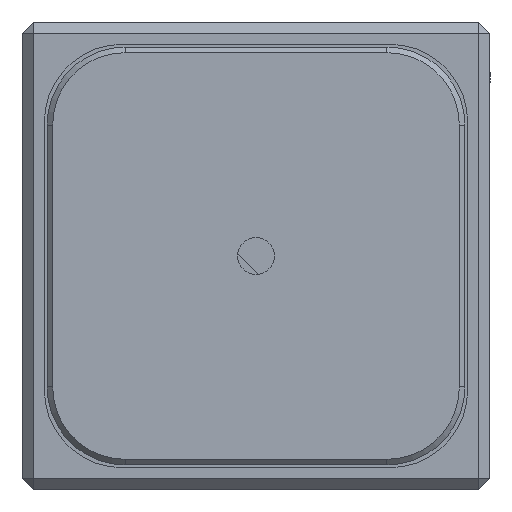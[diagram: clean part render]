
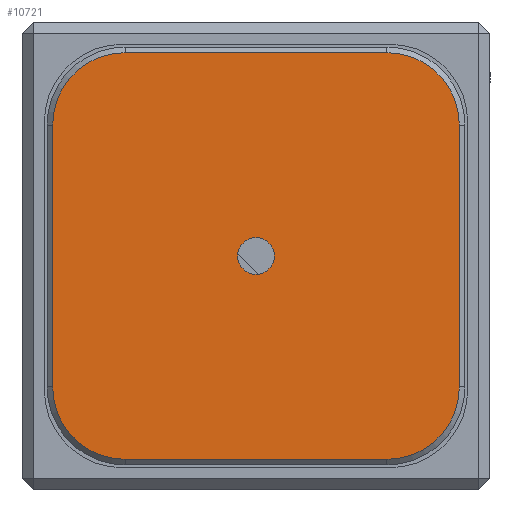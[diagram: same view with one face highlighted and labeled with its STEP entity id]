
A CAD part, front view. The second image highlights one B-rep face of the part: STEP entity #10721.
In plain terms, the highlighted planar face has unit normal (0, -1, 0).
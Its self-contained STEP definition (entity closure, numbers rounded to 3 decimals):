
#24 = DIRECTION ( 'NONE',  ( 0., -1., 0. ) ) ;
#195 = VERTEX_POINT ( 'NONE', #13244 ) ;
#244 = CARTESIAN_POINT ( 'NONE',  ( -11.75, -21.2, -18.25 ) ) ;
#547 = VERTEX_POINT ( 'NONE', #2317 ) ;
#634 = CARTESIAN_POINT ( 'NONE',  ( -11.75, -21.2, 18.25 ) ) ;
#735 = PLANE ( 'NONE',  #1279 ) ;
#1168 = VECTOR ( 'NONE', #4102, 1000. ) ;
#1279 = AXIS2_PLACEMENT_3D ( 'NONE', #11328, #14000, #5553 ) ;
#1495 = CIRCLE ( 'NONE', #10302, 6.5 ) ;
#1596 = EDGE_LOOP ( 'NONE', ( #1796, #4916 ) ) ;
#1665 = CARTESIAN_POINT ( 'NONE',  ( 0., -21.2, 1.65 ) ) ;
#1796 = ORIENTED_EDGE ( 'NONE', *, *, #6287, .F. ) ;
#1960 = VERTEX_POINT ( 'NONE', #7825 ) ;
#2060 = CIRCLE ( 'NONE', #3057, 1.65 ) ;
#2293 = CARTESIAN_POINT ( 'NONE',  ( 0., -21.2, 0. ) ) ;
#2317 = CARTESIAN_POINT ( 'NONE',  ( -18.25, -21.2, -11.75 ) ) ;
#2599 = EDGE_CURVE ( 'NONE', #5901, #547, #6503, .T. ) ;
#2644 = EDGE_CURVE ( 'NONE', #8183, #11264, #12585, .T. ) ;
#2701 = AXIS2_PLACEMENT_3D ( 'NONE', #8576, #5972, #14599 ) ;
#2993 = CIRCLE ( 'NONE', #5002, 6.5 ) ;
#3037 = VECTOR ( 'NONE', #5536, 1000. ) ;
#3057 = AXIS2_PLACEMENT_3D ( 'NONE', #2293, #8059, #3545 ) ;
#3439 = DIRECTION ( 'NONE',  ( 0., 0., 1. ) ) ;
#3545 = DIRECTION ( 'NONE',  ( 0., 0., 1. ) ) ;
#3673 = ORIENTED_EDGE ( 'NONE', *, *, #7244, .T. ) ;
#4102 = DIRECTION ( 'NONE',  ( 0., 0., -1. ) ) ;
#4170 = AXIS2_PLACEMENT_3D ( 'NONE', #5871, #24, #9654 ) ;
#4187 = VERTEX_POINT ( 'NONE', #7933 ) ;
#4258 = LINE ( 'NONE', #634, #8347 ) ;
#4389 = EDGE_CURVE ( 'NONE', #11264, #195, #8486, .T. ) ;
#4582 = DIRECTION ( 'NONE',  ( 0., -1., 0. ) ) ;
#4626 = CARTESIAN_POINT ( 'NONE',  ( 11.75, -21.2, -18.25 ) ) ;
#4916 = ORIENTED_EDGE ( 'NONE', *, *, #12925, .F. ) ;
#5002 = AXIS2_PLACEMENT_3D ( 'NONE', #8074, #4582, #7379 ) ;
#5278 = ORIENTED_EDGE ( 'NONE', *, *, #11773, .T. ) ;
#5348 = CARTESIAN_POINT ( 'NONE',  ( -18.25, -21.2, 11.75 ) ) ;
#5391 = FACE_BOUND ( 'NONE', #1596, .T. ) ;
#5536 = DIRECTION ( 'NONE',  ( 0., 0., 1. ) ) ;
#5553 = DIRECTION ( 'NONE',  ( 0., 0., 1. ) ) ;
#5616 = CARTESIAN_POINT ( 'NONE',  ( 18.25, -21.2, 11.75 ) ) ;
#5621 = CARTESIAN_POINT ( 'NONE',  ( -11.75, -21.2, 11.75 ) ) ;
#5871 = CARTESIAN_POINT ( 'NONE',  ( 11.75, -21.2, -11.75 ) ) ;
#5901 = VERTEX_POINT ( 'NONE', #5348 ) ;
#5972 = DIRECTION ( 'NONE',  ( 0., -1., 0. ) ) ;
#6027 = ORIENTED_EDGE ( 'NONE', *, *, #2599, .T. ) ;
#6065 = DIRECTION ( 'NONE',  ( 0., -1., 0. ) ) ;
#6287 = EDGE_CURVE ( 'NONE', #12835, #7622, #9510, .T. ) ;
#6426 = FACE_OUTER_BOUND ( 'NONE', #13497, .T. ) ;
#6503 = LINE ( 'NONE', #10115, #1168 ) ;
#6585 = DIRECTION ( 'NONE',  ( -1., 0., 0. ) ) ;
#6756 = ORIENTED_EDGE ( 'NONE', *, *, #11604, .T. ) ;
#6874 = CARTESIAN_POINT ( 'NONE',  ( -11.75, -21.2, -11.75 ) ) ;
#7144 = ORIENTED_EDGE ( 'NONE', *, *, #9730, .T. ) ;
#7244 = EDGE_CURVE ( 'NONE', #4187, #10459, #2993, .T. ) ;
#7379 = DIRECTION ( 'NONE',  ( 0., 0., 1. ) ) ;
#7622 = VERTEX_POINT ( 'NONE', #14192 ) ;
#7825 = CARTESIAN_POINT ( 'NONE',  ( -11.75, -21.2, 18.25 ) ) ;
#7878 = ORIENTED_EDGE ( 'NONE', *, *, #2644, .T. ) ;
#7915 = DIRECTION ( 'NONE',  ( 0., 0., 1. ) ) ;
#7933 = CARTESIAN_POINT ( 'NONE',  ( 18.25, -21.2, 11.75 ) ) ;
#8059 = DIRECTION ( 'NONE',  ( 0., -1., 0. ) ) ;
#8068 = DIRECTION ( 'NONE',  ( 0., -1., 0. ) ) ;
#8074 = CARTESIAN_POINT ( 'NONE',  ( 11.75, -21.2, 11.75 ) ) ;
#8183 = VERTEX_POINT ( 'NONE', #244 ) ;
#8347 = VECTOR ( 'NONE', #6585, 1000. ) ;
#8486 = CIRCLE ( 'NONE', #4170, 6.5 ) ;
#8576 = CARTESIAN_POINT ( 'NONE',  ( 0., -21.2, 0. ) ) ;
#9153 = LINE ( 'NONE', #5616, #3037 ) ;
#9510 = CIRCLE ( 'NONE', #2701, 1.65 ) ;
#9654 = DIRECTION ( 'NONE',  ( 0., 0., 1. ) ) ;
#9730 = EDGE_CURVE ( 'NONE', #1960, #5901, #1495, .T. ) ;
#10115 = CARTESIAN_POINT ( 'NONE',  ( -18.25, -21.2, -11.75 ) ) ;
#10302 = AXIS2_PLACEMENT_3D ( 'NONE', #5621, #8068, #7915 ) ;
#10459 = VERTEX_POINT ( 'NONE', #13000 ) ;
#10721 = ADVANCED_FACE ( 'NONE', ( #6426, #5391 ), #735, .T. ) ;
#11248 = ORIENTED_EDGE ( 'NONE', *, *, #4389, .T. ) ;
#11264 = VERTEX_POINT ( 'NONE', #4626 ) ;
#11328 = CARTESIAN_POINT ( 'NONE',  ( 0., -21.2, 0. ) ) ;
#11549 = DIRECTION ( 'NONE',  ( 1., 0., 0. ) ) ;
#11585 = EDGE_CURVE ( 'NONE', #10459, #1960, #4258, .T. ) ;
#11604 = EDGE_CURVE ( 'NONE', #195, #4187, #9153, .T. ) ;
#11773 = EDGE_CURVE ( 'NONE', #547, #8183, #13410, .T. ) ;
#12585 = LINE ( 'NONE', #13698, #13301 ) ;
#12835 = VERTEX_POINT ( 'NONE', #1665 ) ;
#12925 = EDGE_CURVE ( 'NONE', #7622, #12835, #2060, .T. ) ;
#12989 = ORIENTED_EDGE ( 'NONE', *, *, #11585, .T. ) ;
#13000 = CARTESIAN_POINT ( 'NONE',  ( 11.75, -21.2, 18.25 ) ) ;
#13244 = CARTESIAN_POINT ( 'NONE',  ( 18.25, -21.2, -11.75 ) ) ;
#13301 = VECTOR ( 'NONE', #11549, 1000. ) ;
#13410 = CIRCLE ( 'NONE', #15408, 6.5 ) ;
#13497 = EDGE_LOOP ( 'NONE', ( #3673, #12989, #7144, #6027, #5278, #7878, #11248, #6756 ) ) ;
#13698 = CARTESIAN_POINT ( 'NONE',  ( 11.75, -21.2, -18.25 ) ) ;
#14000 = DIRECTION ( 'NONE',  ( 0., -1., 0. ) ) ;
#14192 = CARTESIAN_POINT ( 'NONE',  ( 0., -21.2, -1.65 ) ) ;
#14599 = DIRECTION ( 'NONE',  ( 0., 0., 1. ) ) ;
#15408 = AXIS2_PLACEMENT_3D ( 'NONE', #6874, #6065, #3439 ) ;
